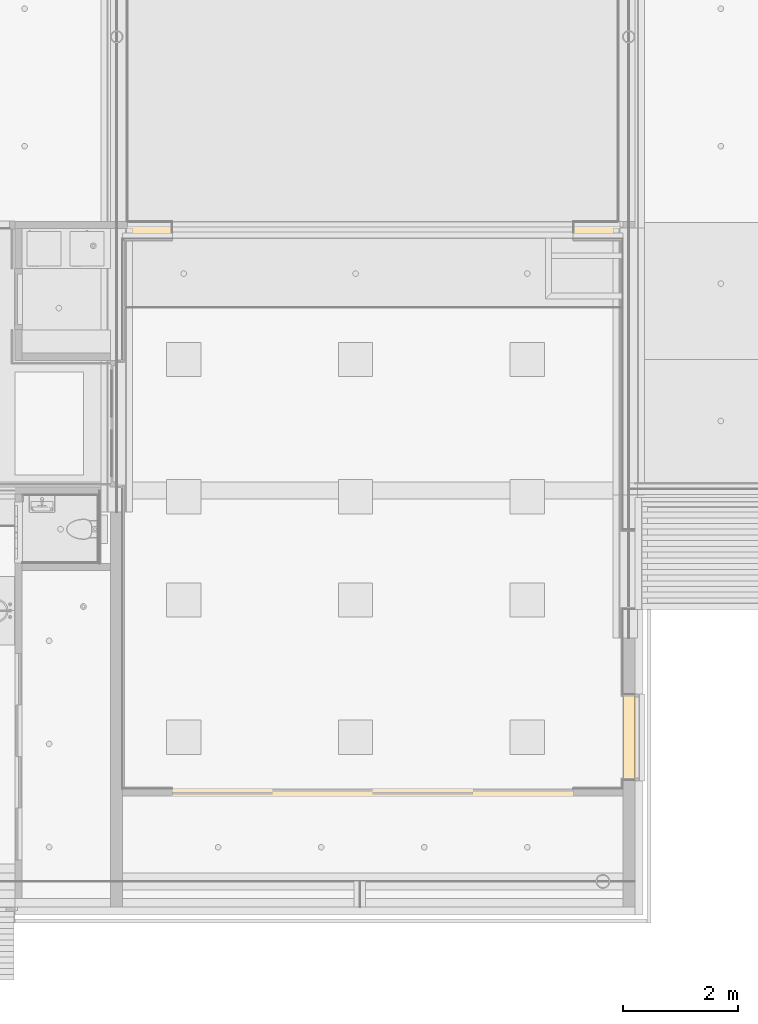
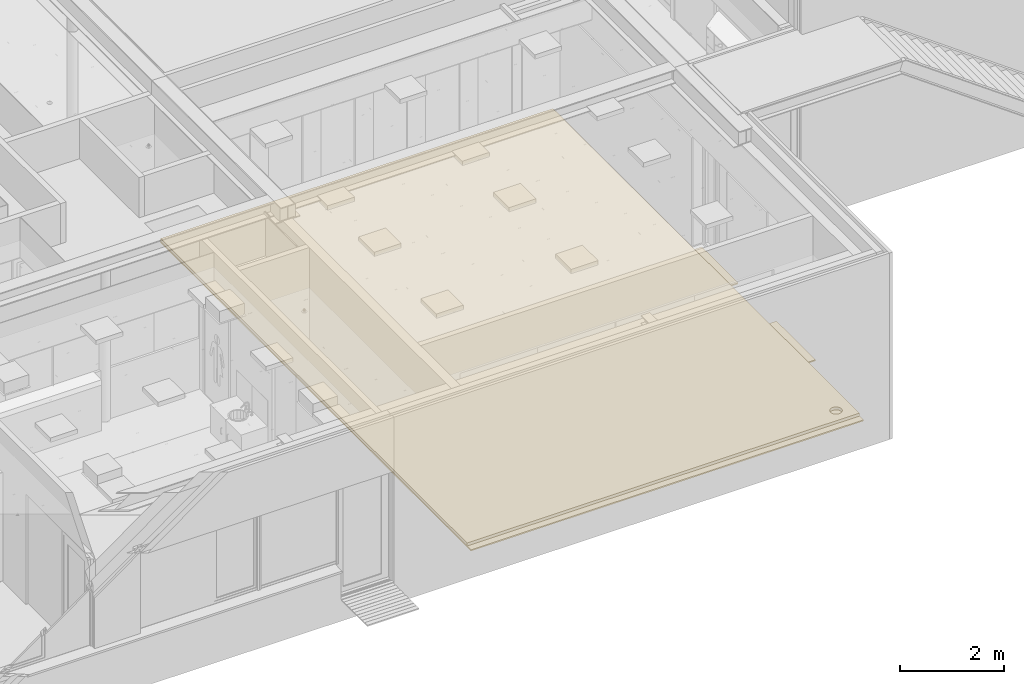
# One storey, part 169 of 347: 2 coverings.
"""IFC2X3 building model written with IfcOpenShell, lengths in millimetres."""

from ifc_helpers import new_model, entity, si_unit, converted_unit, derived_unit, money_unit, direction, frame, origin_with_axes, place, context, subcontext, project, spatial, faceted_brep, material, type_object, element, save


model = new_model("IFC2X3")

# Units and contexts
model_context = context("Model", 3, precision=0.01, world=origin_with_axes(), true_north=direction((0.0, 1.0)))
plan_context = context("Plan", 3, precision=0.01, world=origin_with_axes(), true_north=direction((0.0, 1.0)))
body_context = subcontext(model_context, "Body", "Model", "MODEL_VIEW")
ifc_project = project(units=[si_unit("LENGTHUNIT", "METRE", prefix="MILLI"), si_unit("AREAUNIT", "SQUARE_METRE"), si_unit("VOLUMEUNIT", "CUBIC_METRE"), converted_unit("PLANEANGLEUNIT", "DEGREE", entity("IfcPlaneAngleMeasure", 0.0174532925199), si_unit("PLANEANGLEUNIT", "RADIAN"), dimensions=[0, 0, 0, 0, 0, 0, 0]), money_unit("EUR"), converted_unit("TIMEUNIT", "Year", entity("IfcTimeMeasure", 31556926.0), si_unit("TIMEUNIT", "SECOND"), dimensions=[0, 0, 1, 0, 0, 0, 0]), si_unit("MASSUNIT", "GRAM", prefix="KILO"), si_unit("THERMODYNAMICTEMPERATUREUNIT", "DEGREE_CELSIUS"), si_unit("LUMINOUSINTENSITYUNIT", "LUMEN"), si_unit("ENERGYUNIT", "JOULE", prefix="MEGA"), derived_unit("THERMALCONDUCTANCEUNIT", [(si_unit("POWERUNIT", "WATT"), 1), (si_unit("LENGTHUNIT", "METRE"), -1), (si_unit("THERMODYNAMICTEMPERATUREUNIT", "KELVIN"), -1)]), derived_unit("SPECIFICHEATCAPACITYUNIT", [(si_unit("ENERGYUNIT", "JOULE"), 1), (si_unit("MASSUNIT", "GRAM", prefix="KILO"), -1), (si_unit("THERMODYNAMICTEMPERATUREUNIT", "KELVIN"), -1)]), derived_unit("MASSDENSITYUNIT", [(si_unit("MASSUNIT", "GRAM", prefix="KILO"), 1), (si_unit("VOLUMEUNIT", "CUBIC_METRE"), -1)])], contexts=[model_context, plan_context])

# Site, building, storey
site_placement = place(None, origin_with_axes())
site = spatial("IfcSite", under=ifc_project, at=site_placement, Name="Site", CompositionType="ELEMENT")
building_placement = place(site_placement, origin_with_axes())
building = spatial("IfcBuilding", under=site, at=building_placement, Name="Naam gebouw", CompositionType="ELEMENT")
storey_placement = place(building_placement, origin_with_axes())
storey = spatial("IfcBuildingStorey", under=building, at=storey_placement, Name="begane grond", CompositionType="ELEMENT", Elevation=0.0)

# Coverings
ifc_material_1 = material(Name="Cement - Dekvloer")
covering_type_1 = type_object("IfcCoveringType", Name="Cement - Dekvloer 70", PredefinedType="FLOORING")
covering_1_placement = place(storey_placement, frame((44445.0012774, 16825.0000022, 0.0), z_axis=(0.0, 0.0, 1.0), x_axis=(1.0, 0.0, 0.0)))
element("IfcCovering", 1, at=covering_1_placement, inside=storey, type_object=covering_type_1, material=ifc_material_1, Name="23_cemendekvloer", PredefinedType="FLOORING", context=body_context, shape_type="Brep", body=[
    faceted_brep([(-8.42526048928e-07, -5375.00000223, -70.0), (-8.42526048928e-07, -6775.00000223, -70.0), (-8.42526048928e-07, -8259.99048874, -70.0), (-8.42526048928e-07, -9759.99046579, -70.0), (-0.00106736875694, -11825.0000253, -69.9999831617), (-8740.00127741, -11825.0000253, -69.9999831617), (-8740.00127741, 0.0, -70.0), (0.0, 0.0, -70.0), (-254.42237868, -11601.2216305, -70.0), (-239.857833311, -11578.0422893, -70.0), (-230.816340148, -11552.2031864, -70.0), (-227.751277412, -11525.0000022, -70.0), (-230.816340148, -11497.7968181, -70.0), (-239.857833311, -11471.9577151, -70.0), (-254.42237868, -11448.778374, -70.0), (-273.779649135, -11429.4211035, -70.0), (-296.958990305, -11414.8565581, -70.0), (-322.798093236, -11405.815065, -70.0), (-350.001277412, -11402.7500022, -70.0), (-377.204461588, -11405.815065, -70.0), (-403.043564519, -11414.8565581, -70.0), (-426.222905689, -11429.4211035, -70.0), (-445.580176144, -11448.778374, -70.0), (-460.144721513, -11471.9577151, -70.0), (-469.186214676, -11497.7968181, -70.0), (-472.251277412, -11525.0000022, -70.0), (-469.186214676, -11552.2031864, -70.0), (-460.144721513, -11578.0422893, -70.0), (-445.580176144, -11601.2216305, -70.0), (-426.222905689, -11620.578901, -70.0), (-403.043564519, -11635.1434463, -70.0), (-377.204461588, -11644.1849395, -70.0), (-350.001277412, -11647.2500022, -70.0), (-322.798093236, -11644.1849395, -70.0), (-296.958990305, -11635.1434463, -70.0), (-273.779649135, -11620.578901, -70.0), (-8.42526048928e-07, -6775.00000223, 0.0), (-8.42526048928e-07, -5375.00000223, 0.0), (-8.42526048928e-07, -8259.99048874, 0.0), (-8.42526048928e-07, -9759.99046579, 0.0), (-0.00106736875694, -11825.0000253, 0.0), (-8740.00127741, -11825.0000253, 0.0), (-8740.00127741, 0.0, 0.0), (0.0, 0.0, 0.0), (-254.42237868, -11601.2216305, 0.0), (-239.857833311, -11578.0422893, 0.0), (-230.816340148, -11552.2031864, 0.0), (-227.751277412, -11525.0000022, 0.0), (-230.816340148, -11497.7968181, 0.0), (-239.857833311, -11471.9577151, 0.0), (-254.42237868, -11448.778374, 0.0), (-273.779649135, -11429.4211035, 0.0), (-296.958990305, -11414.8565581, 0.0), (-322.798093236, -11405.815065, 0.0), (-350.001277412, -11402.7500022, 0.0), (-377.204461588, -11405.815065, 0.0), (-403.043564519, -11414.8565581, 0.0), (-426.222905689, -11429.4211035, 0.0), (-445.580176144, -11448.778374, 0.0), (-460.144721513, -11471.9577151, 0.0), (-469.186214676, -11497.7968181, 0.0), (-472.251277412, -11525.0000022, 0.0), (-469.186214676, -11552.2031864, 0.0), (-460.144721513, -11578.0422893, 0.0), (-445.580176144, -11601.2216305, 0.0), (-426.222905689, -11620.578901, 0.0), (-403.043564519, -11635.1434463, 0.0), (-377.204461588, -11644.1849395, 0.0), (-350.001277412, -11647.2500022, 0.0), (-322.798093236, -11644.1849395, 0.0), (-296.958990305, -11635.1434463, 0.0), (-273.779649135, -11620.578901, 0.0)], [[[0, 1, 2, 3, 4, 5, 6, 7], [8, 9, 10, 11, 12, 13, 14, 15, 16, 17, 18, 19, 20, 21, 22, 23, 24, 25, 26, 27, 28, 29, 30, 31, 32, 33, 34, 35]], [[36, 1, 0, 37]], [[1, 36, 38, 2]], [[39, 3, 2, 38]], [[40, 4, 3, 39]], [[41, 5, 4, 40]], [[42, 6, 5, 41]], [[6, 42, 43, 7]], [[7, 43, 37, 0]], [[8, 44, 45, 9]], [[9, 45, 46, 10]], [[10, 46, 47, 11]], [[11, 47, 48, 12]], [[12, 48, 49, 13]], [[13, 49, 50, 14]], [[14, 50, 51, 15]], [[15, 51, 52, 16]], [[16, 52, 53, 17]], [[17, 53, 54, 18]], [[18, 54, 55, 19]], [[19, 55, 56, 20]], [[20, 56, 57, 21]], [[21, 57, 58, 22]], [[22, 58, 59, 23]], [[23, 59, 60, 24]], [[24, 60, 61, 25]], [[25, 61, 62, 26]], [[26, 62, 63, 27]], [[27, 63, 64, 28]], [[28, 64, 65, 29]], [[29, 65, 66, 30]], [[30, 66, 67, 31]], [[31, 67, 68, 32]], [[32, 68, 69, 33]], [[33, 69, 70, 34]], [[34, 70, 71, 35]], [[35, 71, 44, 8]], [[41, 40, 39, 38, 36, 37, 43, 42], [50, 49, 48, 47, 46, 45, 44, 71, 70, 69, 68, 67, 66, 65, 64, 63, 62, 61, 60, 59, 58, 57, 56, 55, 54, 53, 52, 51]]]),
])
ifc_material_2 = material(Name="Isolatie - Kunststof hard")
covering_type_2 = type_object("IfcCoveringType", Name="Isolatie - Kunststof hard 30", PredefinedType="FLOORING")
covering_2_placement = place(storey_placement, frame((44445.0012774, 16825.0000022, -70.0), z_axis=(0.0, 0.0, 1.0), x_axis=(1.0, 0.0, 0.0)))
element("IfcCovering", 2, at=covering_2_placement, inside=storey, type_object=covering_type_2, material=ifc_material_2, Name="23_cemendekvloer", PredefinedType="FLOORING", context=body_context, shape_type="Brep", body=[
    faceted_brep([(-8740.00127741, 0.0, 0.0), (0.0, 0.0, 0.0), (0.0, 0.0, -30.0), (-8740.00127741, 0.0, -30.0), (209.998829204, -5375.00053266, 0.0), (-0.000523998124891, -5375.00000223, 0.0), (-8740.00127741, -11975.0000022, 0.0), (-0.00106736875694, -11974.9999807, 0.0), (-0.00106736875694, -9759.99046579, 0.0), (209.99893925, -9759.99046579, 0.0), (209.999096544, -8259.99048874, 0.0), (-0.000728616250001, -8259.99048874, 0.0), (-0.000728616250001, -6775.00000223, 0.0), (209.99912047, -6775.00000223, 0.0), (-0.000523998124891, -5375.00000223, -30.0), (-8740.00127741, -11975.0000022, -30.0), (209.998829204, -5375.00053266, -30.0), (209.99912047, -6775.00000223, -30.0), (-0.000728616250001, -6775.00000223, -30.0), (-0.000728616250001, -8259.99048874, -30.0), (209.999096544, -8259.99048874, -30.0), (209.99893925, -9759.99046579, -30.0), (-0.00106736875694, -9759.99046579, -30.0), (-0.00106736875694, -11974.9999807, -30.0)], [[[0, 1, 2, 3]], [[4, 5, 1, 0, 6, 7, 8, 9, 10, 11, 12, 13]], [[1, 5, 14, 2]], [[15, 3, 2, 14, 16, 17, 18, 19, 20, 21, 22, 23]], [[6, 0, 3, 15]], [[5, 4, 16, 14]], [[7, 6, 15, 23]], [[8, 7, 23, 22]], [[9, 8, 22, 21]], [[10, 9, 21, 20]], [[11, 10, 20, 19]], [[12, 11, 19, 18]], [[13, 12, 18, 17]], [[4, 13, 17, 16]]]),
])

save(model, "model.ifc")
